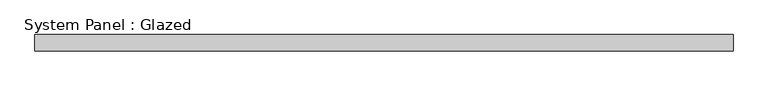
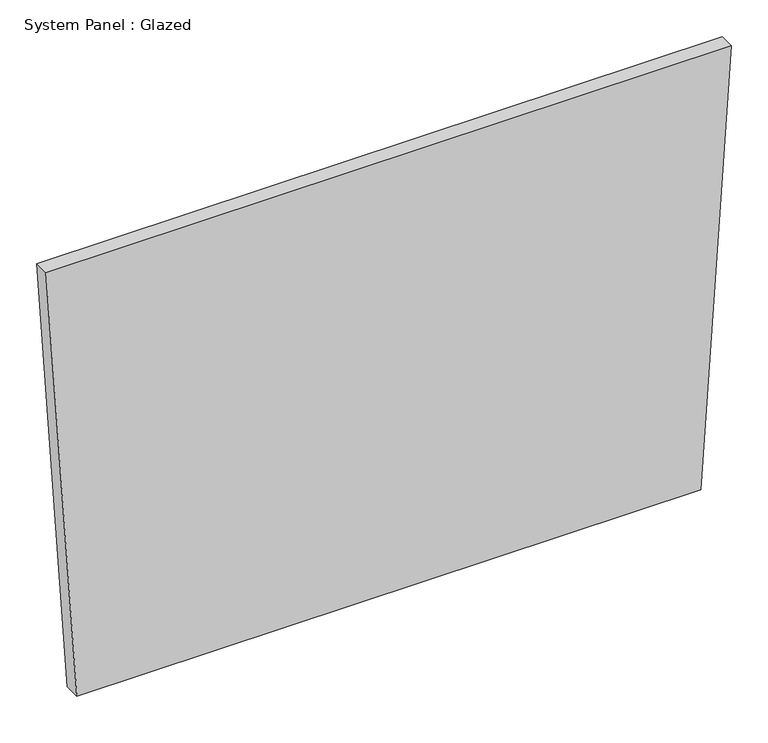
"""IFC4 building model written with IfcOpenShell, lengths in millimetres: plate geometry, System Panel : Glazed."""

from ifc_helpers import new_model, si_unit, frame, origin, place, context, project, spatial, polyline, outline, extrude, source, transform, mapped, element, save


def system_panel_glazed_7d937b3a(model_context):
    return source(origin(), model_context, "Body", "SweptSolid", [
        extrude(outline(polyline([(0.0, -492.1785483), (0.0, 492.1784963), (723.2666196, 540.8667277), (723.2658473, -540.8667277), (0.0, -492.1785483)])), frame((0.0, 19.05, 0.0), z_axis=(0.0, 1.0, 0.0), x_axis=(0.0, 0.0, 1.0)), (0.0, 0.0, 1.0), 25.4),
    ])


if __name__ == "__main__":
    model = new_model("IFC4")
    model_context = context("Model", 3, world=origin())
    ifc_project = project(units=[si_unit("LENGTHUNIT", "METRE", prefix="MILLI")], contexts=[model_context])
    site = spatial("IfcSite", under=ifc_project)
    building = spatial("IfcBuilding", under=site)
    placement = place(None, origin())
    system_panel_glazed_shape = system_panel_glazed_7d937b3a(model_context)
    element("IfcPlate", 1, ObjectType="System Panel : Glazed", at=placement, inside=building, context=model_context, shape_type="MappedRepresentation", body=[
        mapped(system_panel_glazed_shape, transform((0.0, 0.0, 0.0), x_axis=(1.0, 0.0, 0.0), y_axis=(0.0, 1.0, 0.0), z_axis=(0.0, 0.0, 1.0))),
    ])
    save(model, "model.ifc")
